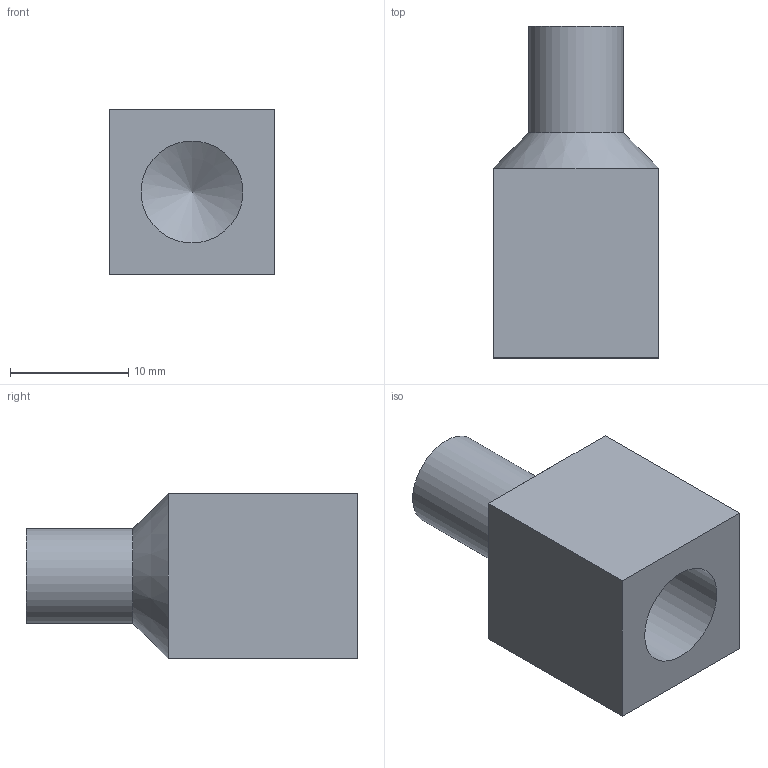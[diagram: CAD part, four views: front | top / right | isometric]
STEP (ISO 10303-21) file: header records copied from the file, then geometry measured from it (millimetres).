
FILE_DESCRIPTION(/* description */ (''),/* implementation_level */ '2;1');
FILE_NAME(/* name */ 'C:/Users/Nate/Downloads/CutterAdapter v1.step',/* time_stamp */ '2017-04-07T14:17:00-07:00',/* author */ (''),/* organization */ (''),/* preprocessor_version */ 'ST-DEVELOPER v16.5',/* originating_system */ 'Autodesk Translation Framework v5.2.0.2920',/* authorisation */ '');
FILE_SCHEMA (('AUTOMOTIVE_DESIGN { 1 0 10303 214 3 1 1 }'));
Length unit declared in the file: millimetre
Products named in the file (1): CutterAdapter v1
Bounding box: 14 x 28 x 14 mm (x, y, z)
Volume: 3133.5 mm3; surface area: 1891 mm2
Topology: 1 solids, 1 shells, 14 faces, 29 edges, 17 vertices
Faces by surface type: plane 10, cone 2, cylinder 2
Full cylindrical faces by diameter (mm): 8 x1, 8.6 x1
Entity records: 358 total; most frequent: DIRECTION 62, CARTESIAN_POINT 55, ORIENTED_EDGE 48, EDGE_CURVE 24, AXIS2_PLACEMENT_3D 23, EDGE_LOOP 18, LINE 16, VECTOR 16
